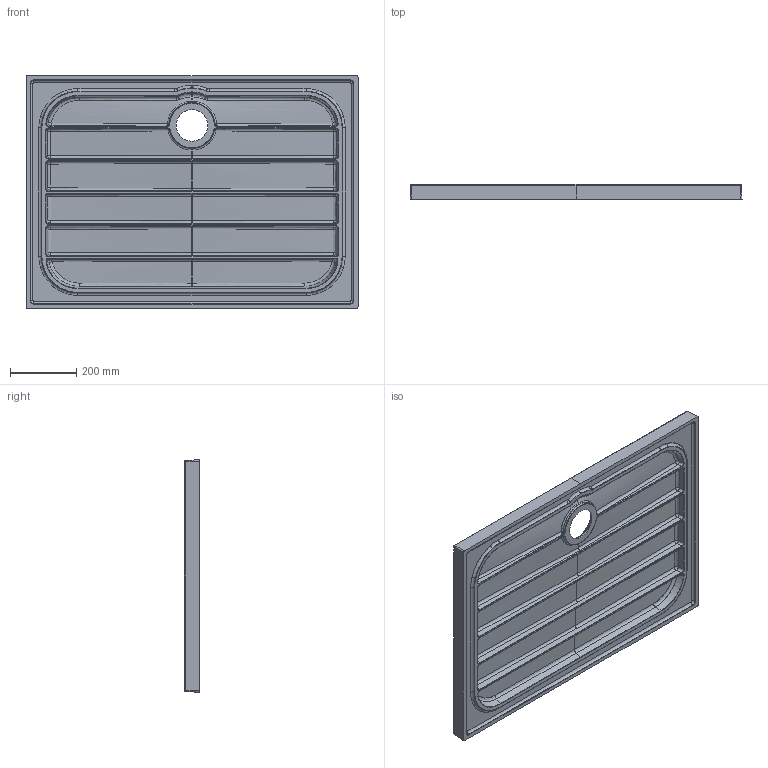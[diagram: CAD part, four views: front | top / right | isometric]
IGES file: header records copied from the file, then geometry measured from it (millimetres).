
Start section: START RECORD GO HERE.
Global section: file name: 3D_1081.igs; native system: DASSAULT SYSTEMES CATIA V5 R19 - www.3ds.com; preprocessor: CATIA Version 5 Release 19 SP 5 ; author: Luca; organization: DESKTOP-V7SON24; date: 20221025.092452; units: millimetre
Bounding box: 1000.14 x 45 x 700.14 mm (x, y, z)
Surface area: 1751776.7 mm2 (no closed solid volume)
Topology: 0 solids, 0 shells, 952 faces, 4435 edges, 4410 vertices
Faces by surface type: bspline 829, revolution 107, plane 16
